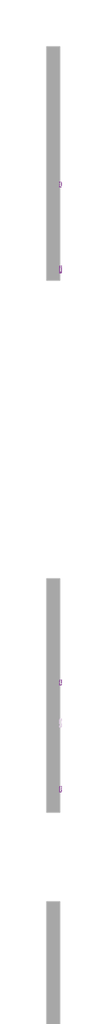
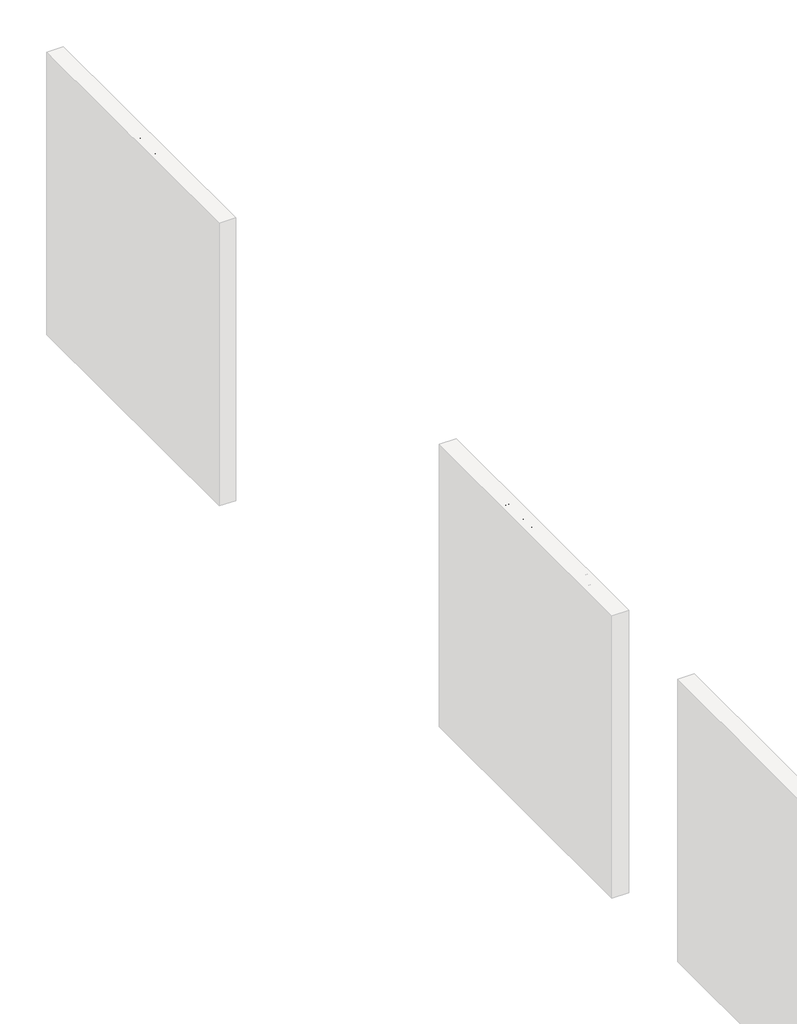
# One storey, part 16 of 17: 5 proxies.
"""IFC4 building model written with IfcOpenShell, lengths in millimetres."""

from ifc_helpers import new_model, si_unit, frame, origin, place, context, project, spatial, polyline, outline, extrude, element, save

model = new_model("IFC4")

# Units and contexts
model_context = context("Model", 3, world=origin())
ifc_project = project(units=[si_unit("LENGTHUNIT", "METRE", prefix="MILLI")], contexts=[model_context])

# Site, building, storey
site = spatial("IfcSite", under=ifc_project)
building = spatial("IfcBuilding", under=site)
storey = spatial("IfcBuildingStorey", under=building, Name="PORTOBELLO - SHOWROOM", Elevation=0.0)

# Proxies
placement = place(None, origin())
element("IfcBuildingElementProxy", 1, Name="10mm Arial", ObjectType="10mm Arial", at=placement, inside=storey, context=model_context, shape_type="SweptSolid", body=[
    extrude(outline(polyline([(19299.0684621, 2518.4745677), (19299.0684621, 2618.9308778), (19337.401766, 2618.9308778), (19356.1760105, 2615.9755591), (19367.2615213, 2606.8888738), (19371.2714351, 2594.0375295), (19367.8991834, 2582.3020938), (19357.7088522, 2573.4116123), (19370.0819499, 2564.0428841), (19374.4106948, 2548.4201621), (19371.4553761, 2534.9188928), (19364.1345244, 2525.30491), (19353.2084291, 2520.203613), (19337.1074604, 2518.4745677), (19299.0684621, 2518.4745677)]), holes=[polyline([(19311.6255009, 2578.1205018), (19334.5568119, 2578.1205018), (19347.9477166, 2579.1996223), (19356.0043323, 2583.8471982), (19358.7143963, 2592.0264412), (19356.1882733, 2600.217947), (19348.9532607, 2605.0617266), (19332.8155038, 2606.373839), (19311.6255009, 2606.373839), (19311.6255009, 2578.1205018)]), polyline([(19311.6255009, 2531.0316064), (19337.3772406, 2531.0316064), (19346.6969178, 2531.5221158), (19354.5818552, 2534.2567053), (19359.8057795, 2539.8362488), (19361.853656, 2548.2975347), (19359.4501603, 2558.0586703), (19351.6633247, 2563.8834686), (19336.1509673, 2565.563463), (19311.6255009, 2565.563463), (19311.6255009, 2531.0316064)])]), frame((-7622.2794626, 0.0, 0.0), z_axis=(1.0, 0.0, 0.0), x_axis=(0.0, 1.0, 0.0)), (0.0, 0.0, 1.0), 20.0),
    extrude(outline(polyline([(19390.1069932, 2518.4745677), (19390.1069932, 2592.2471704), (19401.0944021, 2592.2471704), (19401.0944021, 2581.3333379), (19408.8935004, 2591.3887791), (19416.7416497, 2593.8168003), (19429.3477394, 2589.9417766), (19425.1538846, 2578.6845875), (19416.3247167, 2581.2597615), (19409.2245942, 2578.7826894), (19404.6996457, 2571.9155588), (19402.664032, 2557.24933), (19402.664032, 2518.4745677), (19390.1069932, 2518.4745677)])), frame((-7622.2794626, 0.0, 0.0), z_axis=(1.0, 0.0, 0.0), x_axis=(0.0, 1.0, 0.0)), (0.0, 0.0, 1.0), 20.0),
    extrude(outline(polyline([(19484.284784, 2527.8923467), (19472.1078899, 2519.3820099), (19458.6556716, 2516.9049378), (19448.1618377, 2518.3948599), (19440.4209874, 2522.8646261), (19435.6477185, 2529.6520489), (19434.0566289, 2538.0949407), (19436.4601246, 2548.0277546), (19442.7754322, 2555.2382417), (19451.5678119, 2559.3585201), (19462.4325935, 2561.246981), (19484.2112076, 2565.563463), (19484.284784, 2568.3593662), (19480.8266932, 2577.6299925), (19466.9452793, 2581.2597615), (19454.2410877, 2578.8440031), (19448.1832975, 2570.2723526), (19435.6262587, 2571.8419824), (19441.0586495, 2584.1047156), (19451.9970075, 2591.2906772), (19468.56396, 2593.8168003), (19483.7820119, 2591.5849828), (19492.3781879, 2585.9809138), (19496.2286861, 2577.4583142), (19496.8418227, 2566.4709053), (19496.8418227, 2550.8481832), (19497.4794849, 2529.0327809), (19499.9810824, 2518.4745677), (19487.4240437, 2518.4745677), (19484.284784, 2527.8923467)]), holes=[polyline([(19484.284784, 2553.0064243), (19464.0267488, 2549.1559261), (19453.2232809, 2547.1203124), (19448.3304503, 2543.8093744), (19446.6136677, 2538.9778575), (19450.3538013, 2532.1843033), (19461.3289475, 2529.4619766), (19474.033139, 2532.4663462), (19482.2246448, 2539.738147), (19484.2112076, 2549.4502317), (19484.284784, 2553.0064243)])]), frame((-7622.2794626, 0.0, 0.0), z_axis=(1.0, 0.0, 0.0), x_axis=(0.0, 1.0, 0.0)), (0.0, 0.0, 1.0), 20.0),
    extrude(outline(polyline([(19514.1077511, 2518.4745677), (19514.1077511, 2592.2471704), (19526.6647898, 2592.2471704), (19526.6647898, 2581.9464746), (19536.2665099, 2590.8492188), (19549.3753717, 2593.8168003), (19561.2334346, 2591.4255673), (19569.3268385, 2585.1470479), (19573.0914976, 2575.9132098), (19573.7536852, 2563.773104), (19573.7536852, 2518.4745677), (19561.1966464, 2518.4745677), (19561.1966464, 2562.0808468), (19559.7496439, 2573.1908831), (19554.6360842, 2579.0647323), (19546.0153828, 2581.2597615), (19532.3914862, 2576.3301428), (19528.0964639, 2569.1871007), (19526.6647898, 2557.6172119), (19526.6647898, 2518.4745677), (19514.1077511, 2518.4745677)])), frame((-7622.2794626, 0.0, 0.0), z_axis=(1.0, 0.0, 0.0), x_axis=(0.0, 1.0, 0.0)), (0.0, 0.0, 1.0), 20.0),
    extrude(outline(polyline([(19638.1085089, 2545.158275), (19650.6655477, 2543.5886452), (19647.1645373, 2532.420361), (19640.585581, 2523.9805349), (19631.5479466, 2518.6738371), (19620.6709023, 2516.9049378), (19607.3137202, 2519.3728129), (19596.8689372, 2526.776438), (19590.1274997, 2538.7908508), (19587.8803538, 2555.0910889), (19591.7185893, 2575.949998), (19603.4172367, 2589.3531654), (19620.4992241, 2593.8168003), (19631.1095539, 2592.2839586), (19639.5922996, 2587.6854337), (19645.6776809, 2580.2664801), (19649.0959178, 2570.2723526), (19636.538879, 2568.7027227), (19630.7140808, 2578.1082391), (19620.5973259, 2581.2597615), (19612.4824622, 2579.7085258), (19606.0414616, 2575.0548185), (19601.8384099, 2567.0472538), (19600.4373926, 2555.4344454), (19601.807753, 2543.6652873), (19605.9188343, 2535.6301314), (19612.2433389, 2531.0040153), (19620.2539694, 2529.4619766), (19632.0875069, 2533.3124748), (19638.1085089, 2545.158275)])), frame((-7622.2794626, 0.0, 0.0), z_axis=(1.0, 0.0, 0.0), x_axis=(0.0, 1.0, 0.0)), (0.0, 0.0, 1.0), 20.0),
    extrude(outline(polyline([(19658.5136969, 2555.360869), (19661.2298923, 2573.1479635), (19669.3784785, 2585.64982), (19679.4461824, 2591.7750552), (19691.5004491, 2593.8168003), (19704.6920843, 2591.3305311), (19715.2288378, 2583.8717237), (19722.1358223, 2572.0289891), (19724.4381504, 2556.3909386), (19720.366923, 2534.0482388), (19708.50886, 2521.4053609), (19691.5004491, 2516.9049378), (19678.1493984, 2519.3820099), (19667.6249076, 2526.8132262), (19660.7914996, 2538.9042811), (19658.5136969, 2555.360869)]), holes=[polyline([(19671.0707357, 2555.3853945), (19672.5238695, 2544.0209065), (19676.8832712, 2535.924437), (19683.4438334, 2531.0775917), (19691.5004491, 2529.4619766), (19699.5202766, 2531.0867887), (19706.0685761, 2535.9612252), (19710.4279778, 2544.1649937), (19711.8811117, 2555.777802), (19710.4187807, 2566.8111961), (19706.0317879, 2574.7973011), (19699.4742914, 2579.6441464), (19691.5004491, 2581.2597615), (19683.4438334, 2579.6502778), (19676.8832712, 2574.8218266), (19672.5238695, 2566.7437511), (19671.0707357, 2555.3853945)])]), frame((-7622.2794626, 0.0, 0.0), z_axis=(1.0, 0.0, 0.0), x_axis=(0.0, 1.0, 0.0)), (0.0, 0.0, 1.0), 20.0),
    extrude(outline(polyline([(19779.375195, 2518.4745677), (19779.375195, 2618.9308778), (19846.8692784, 2618.9308778), (19846.8692784, 2606.373839), (19791.9322338, 2606.373839), (19791.9322338, 2576.550872), (19839.0211292, 2576.550872), (19839.0211292, 2563.9938332), (19791.9322338, 2563.9938332), (19791.9322338, 2518.4745677), (19779.375195, 2518.4745677)])), frame((-7622.2794626, 0.0, 0.0), z_axis=(1.0, 0.0, 0.0), x_axis=(0.0, 1.0, 0.0)), (0.0, 0.0, 1.0), 20.0),
    extrude(outline(polyline([(19862.5655769, 2518.4745677), (19862.5655769, 2592.2471704), (19873.5529858, 2592.2471704), (19873.5529858, 2581.3333379), (19881.3520841, 2591.3887791), (19889.2002333, 2593.8168003), (19901.806323, 2589.9417766), (19897.6124683, 2578.6845875), (19888.7833004, 2581.2597615), (19881.6831779, 2578.7826894), (19877.1582294, 2571.9155588), (19875.1226157, 2557.24933), (19875.1226157, 2518.4745677), (19862.5655769, 2518.4745677)])), frame((-7622.2794626, 0.0, 0.0), z_axis=(1.0, 0.0, 0.0), x_axis=(0.0, 1.0, 0.0)), (0.0, 0.0, 1.0), 20.0),
    extrude(outline(polyline([(19961.3051044, 2540.4493855), (19973.6168885, 2538.8797557), (19969.1808448, 2529.602998), (19962.102182, 2522.6684224), (19952.5403159, 2518.345809), (19940.6546617, 2516.9049378), (19925.9209878, 2519.391207), (19914.584091, 2526.8500144), (19907.3552098, 2538.7969822), (19904.9455827, 2554.7477324), (19907.3797353, 2571.2349771), (19914.6821929, 2583.5651553), (19925.8658055, 2591.253889), (19939.9434232, 2593.8168003), (19953.5826482, 2591.2600204), (19964.4811523, 2583.5896808), (19971.62726, 2571.2840281), (19974.009296, 2554.8213088), (19973.9357196, 2551.4367944), (19917.5026215, 2551.4367944), (19919.676191, 2542.0374095), (19924.7253713, 2535.1273593), (19932.0125005, 2530.8783223), (19940.8999164, 2529.4619766), (19953.2117005, 2532.0862015), (19961.3051044, 2540.4493855)]), holes=[polyline([(19917.5026215, 2563.9938332), (19961.4522572, 2563.9938332), (19956.4245366, 2575.3736496), (19949.1036849, 2579.7882335), (19939.8943723, 2581.2597615), (19924.4310657, 2576.5631347), (19919.5658264, 2571.0724959), (19917.5026215, 2563.9938332)])]), frame((-7622.2794626, 0.0, 0.0), z_axis=(1.0, 0.0, 0.0), x_axis=(0.0, 1.0, 0.0)), (0.0, 0.0, 1.0), 20.0),
    extrude(outline(polyline([(20033.6552301, 2545.158275), (20046.2122689, 2543.5886452), (20042.7112586, 2532.420361), (20036.1323022, 2523.9805349), (20027.0946679, 2518.6738371), (20016.2176235, 2516.9049378), (20002.8604414, 2519.3728129), (19992.4156584, 2526.776438), (19985.6742209, 2538.7908508), (19983.427075, 2555.0910889), (19987.2653105, 2575.949998), (19998.963958, 2589.3531654), (20016.0459453, 2593.8168003), (20026.6562751, 2592.2839586), (20035.1390208, 2587.6854337), (20041.2244022, 2580.2664801), (20044.642639, 2570.2723526), (20032.0856003, 2568.7027227), (20026.260802, 2578.1082391), (20016.1440471, 2581.2597615), (20008.0291835, 2579.7085258), (20001.5881829, 2575.0548185), (19997.3851311, 2567.0472538), (19995.9841138, 2555.4344454), (19997.3544742, 2543.6652873), (20001.4655555, 2535.6301314), (20007.7900602, 2531.0040153), (20015.8006906, 2529.4619766), (20027.6342281, 2533.3124748), (20033.6552301, 2545.158275)])), frame((-7622.2794626, 0.0, 0.0), z_axis=(1.0, 0.0, 0.0), x_axis=(0.0, 1.0, 0.0)), (0.0, 0.0, 1.0), 20.0),
    extrude(outline(polyline([(20104.2885732, 2545.158275), (20116.845612, 2543.5886452), (20113.3446016, 2532.420361), (20106.7656453, 2523.9805349), (20097.7280109, 2518.6738371), (20086.8509666, 2516.9049378), (20073.4937845, 2519.3728129), (20063.0490015, 2526.776438), (20056.307564, 2538.7908508), (20054.0604181, 2555.0910889), (20057.8986536, 2575.949998), (20069.597301, 2589.3531654), (20086.6792883, 2593.8168003), (20097.2896182, 2592.2839586), (20105.7723639, 2587.6854337), (20111.8577452, 2580.2664801), (20115.2759821, 2570.2723526), (20102.7189433, 2568.7027227), (20096.8941451, 2578.1082391), (20086.7773902, 2581.2597615), (20078.6625265, 2579.7085258), (20072.2215259, 2575.0548185), (20068.0184741, 2567.0472538), (20066.6174569, 2555.4344454), (20067.9878173, 2543.6652873), (20072.0988986, 2535.6301314), (20078.4234032, 2531.0040153), (20086.4340337, 2529.4619766), (20098.2675712, 2533.3124748), (20104.2885732, 2545.158275)])), frame((-7622.2794626, 0.0, 0.0), z_axis=(1.0, 0.0, 0.0), x_axis=(0.0, 1.0, 0.0)), (0.0, 0.0, 1.0), 20.0),
    extrude(outline(polyline([(-7602.2794626, 20140.3900596), (-7602.2794626, 20127.8330209), (-7622.2794626, 20127.8330209), (-7622.2794626, 20140.3900596), (-7602.2794626, 20140.3900596)])), frame((0.0, 0.0, 2606.373839), z_axis=(0.0, 0.0, 1.0), x_axis=(1.0, 0.0, 0.0)), (0.0, 0.0, 1.0), 12.5570388),
    extrude(outline(polyline([(-7602.2794626, 20140.3900596), (-7602.2794626, 20127.8330209), (-7622.2794626, 20127.8330209), (-7622.2794626, 20140.3900596), (-7602.2794626, 20140.3900596)])), frame((0.0, 0.0, 2518.4745677), z_axis=(0.0, 0.0, 1.0), x_axis=(1.0, 0.0, 0.0)), (0.0, 0.0, 1.0), 73.7726028),
    extrude(outline(polyline([(20206.3145132, 2527.8923467), (20194.1376191, 2519.3820099), (20180.6854008, 2516.9049378), (20170.1915669, 2518.3948599), (20162.4507166, 2522.8646261), (20157.6774477, 2529.6520489), (20156.0863581, 2538.0949407), (20158.4898538, 2548.0277546), (20164.8051614, 2555.2382417), (20173.5975411, 2559.3585201), (20184.4623227, 2561.246981), (20206.2409368, 2565.563463), (20206.3145132, 2568.3593662), (20202.8564224, 2577.6299925), (20188.9750085, 2581.2597615), (20176.2708169, 2578.8440031), (20170.2130267, 2570.2723526), (20157.6559879, 2571.8419824), (20163.0883787, 2584.1047156), (20174.0267367, 2591.2906772), (20190.5936892, 2593.8168003), (20205.8117411, 2591.5849828), (20214.4079171, 2585.9809138), (20218.2584153, 2577.4583142), (20218.8715519, 2566.4709053), (20218.8715519, 2550.8481832), (20219.5092141, 2529.0327809), (20222.0108116, 2518.4745677), (20209.4537729, 2518.4745677), (20206.3145132, 2527.8923467)]), holes=[polyline([(20206.3145132, 2553.0064243), (20186.056478, 2549.1559261), (20175.2530101, 2547.1203124), (20170.3601795, 2543.8093744), (20168.6433969, 2538.9778575), (20172.3835305, 2532.1843033), (20183.3586767, 2529.4619766), (20196.0628682, 2532.4663462), (20204.254374, 2539.738147), (20206.2409368, 2549.4502317), (20206.3145132, 2553.0064243)])]), frame((-7622.2794626, 0.0, 0.0), z_axis=(1.0, 0.0, 0.0), x_axis=(0.0, 1.0, 0.0)), (0.0, 0.0, 1.0), 20.0),
])
element("IfcBuildingElementProxy", 2, Name="10mm Arial", ObjectType="10mm Arial", at=placement, inside=storey, context=model_context, shape_type="SweptSolid", body=[
    extrude(outline(polyline([(13192.4529383, 2393.4745677), (13179.8958996, 2393.4745677), (13179.8958996, 2471.7598562), (13168.0010484, 2463.2863076), (13154.781822, 2456.9464746), (13154.781822, 2468.8168003), (13173.1881845, 2480.5644987), (13184.3595344, 2493.9308778), (13192.4529383, 2493.9308778), (13192.4529383, 2393.4745677)])), frame((-7622.2794626, 0.0, 0.0), z_axis=(1.0, 0.0, 0.0), x_axis=(0.0, 1.0, 0.0)), (0.0, 0.0, 1.0), 20.0),
    extrude(outline(polyline([(13222.2759054, 2442.8933823), (13225.9669881, 2471.7966444), (13236.9298715, 2488.4616988), (13255.2381322, 2493.9308778), (13269.904361, 2490.6935163), (13280.0333786, 2481.3615763), (13285.9194906, 2466.4991437), (13288.2003589, 2442.8933823), (13284.5460645, 2414.1127476), (13273.6199692, 2397.410905), (13265.3886096, 2393.2814296), (13255.2381322, 2391.9049378), (13242.1905841, 2394.2961708), (13232.2822957, 2401.4698697), (13224.777503, 2418.4598865), (13222.2759054, 2442.8933823)]), holes=[polyline([(13234.8329442, 2442.9179078), (13236.3044722, 2423.1657104), (13240.7190561, 2411.7337774), (13247.2918811, 2406.2799268), (13255.2381322, 2404.4619766), (13263.1843833, 2406.2860581), (13269.7572082, 2411.7583028), (13274.1717922, 2423.1963672), (13275.6433202, 2442.9179078), (13274.2208431, 2462.2255812), (13269.953412, 2473.746419), (13263.3928497, 2479.466984), (13255.0909794, 2481.373839), (13247.2305674, 2479.6938446), (13240.9152598, 2474.6538613), (13236.3535231, 2462.4156536), (13234.8329442, 2442.9179078)])]), frame((-7622.2794626, 0.0, 0.0), z_axis=(1.0, 0.0, 0.0), x_axis=(0.0, 1.0, 0.0)), (0.0, 0.0, 1.0), 20.0),
    extrude(outline(polyline([(13294.4788783, 2393.4745677), (13321.3097385, 2430.5815982), (13296.0485082, 2467.2471704), (13311.1071445, 2467.2471704), (13323.2963013, 2449.5643092), (13329.0107349, 2441.2501761), (13333.9648791, 2448.0682557), (13347.8462931, 2467.2471704), (13362.9539804, 2467.2471704), (13336.4174258, 2430.5570728), (13361.9729617, 2393.4745677), (13346.8897999, 2393.4745677), (13331.487807, 2415.792742), (13328.6919039, 2419.8884949), (13309.5865656, 2393.4745677), (13294.4788783, 2393.4745677)])), frame((-7622.2794626, 0.0, 0.0), z_axis=(1.0, 0.0, 0.0), x_axis=(0.0, 1.0, 0.0)), (0.0, 0.0, 1.0), 20.0),
    extrude(outline(polyline([(13434.1759346, 2406.0316064), (13434.1759346, 2393.4745677), (13368.2514811, 2393.4745677), (13369.6003817, 2402.1320573), (13377.2400645, 2415.4616482), (13392.9731512, 2430.0175125), (13414.6414007, 2450.9377353), (13420.049266, 2465.1625058), (13414.9357063, 2476.6772122), (13401.5815899, 2481.373839), (13387.6633877, 2476.7875768), (13382.3781497, 2464.1079107), (13369.8211109, 2465.6775406), (13372.8653344, 2477.8237778), (13379.4473565, 2486.6958652), (13389.2238205, 2492.1221247), (13401.85137, 2493.9308778), (13414.57089, 2491.9197896), (13424.3289599, 2485.8865249), (13430.5369686, 2476.873416), (13432.6063048, 2465.9227952), (13430.3744873, 2454.0156813), (13422.9555338, 2441.7038972), (13404.9661042, 2424.4992826), (13390.5206045, 2412.4204904), (13384.8552218, 2406.0316064), (13434.1759346, 2406.0316064)])), frame((-7622.2794626, 0.0, 0.0), z_axis=(1.0, 0.0, 0.0), x_axis=(0.0, 1.0, 0.0)), (0.0, 0.0, 1.0), 20.0),
    extrude(outline(polyline([(13446.7329734, 2442.8933823), (13450.4240561, 2471.7966444), (13461.3869395, 2488.4616988), (13479.6952002, 2493.9308778), (13494.361429, 2490.6935163), (13504.4904466, 2481.3615763), (13510.3765586, 2466.4991437), (13512.6574269, 2442.8933823), (13509.0031324, 2414.1127476), (13498.0770372, 2397.410905), (13489.8456775, 2393.2814296), (13479.6952002, 2391.9049378), (13466.6476521, 2394.2961708), (13456.7393637, 2401.4698697), (13449.234571, 2418.4598865), (13446.7329734, 2442.8933823)]), holes=[polyline([(13459.2900122, 2442.9179078), (13460.7615401, 2423.1657104), (13465.1761241, 2411.7337774), (13471.7489491, 2406.2799268), (13479.6952002, 2404.4619766), (13487.6414513, 2406.2860581), (13494.2142762, 2411.7583028), (13498.6288602, 2423.1963672), (13500.1003882, 2442.9179078), (13498.6779111, 2462.2255812), (13494.41048, 2473.746419), (13487.8499177, 2479.466984), (13479.5480474, 2481.373839), (13471.6876354, 2479.6938446), (13465.3723278, 2474.6538613), (13460.8105911, 2462.4156536), (13459.2900122, 2442.9179078)])]), frame((-7622.2794626, 0.0, 0.0), z_axis=(1.0, 0.0, 0.0), x_axis=(0.0, 1.0, 0.0)), (0.0, 0.0, 1.0), 20.0),
])
element("IfcBuildingElementProxy", 3, Name="10mm Arial", ObjectType="10mm Arial", at=placement, inside=storey, context=model_context, shape_type="SweptSolid", body=[
    extrude(outline(polyline([(19335.1699486, 2383.4745677), (19335.1699486, 2407.0190154), (19289.6506831, 2407.0190154), (19289.6506831, 2419.5760541), (19338.3092083, 2482.361248), (19347.7269874, 2482.361248), (19347.7269874, 2419.5760541), (19360.2840261, 2419.5760541), (19360.2840261, 2407.0190154), (19347.7269874, 2407.0190154), (19347.7269874, 2383.4745677), (19335.1699486, 2383.4745677)]), holes=[polyline([(19335.1699486, 2419.5760541), (19335.1699486, 2458.3753419), (19305.1017269, 2419.5760541), (19335.1699486, 2419.5760541)])]), frame((-7622.2794626, 0.0, 0.0), z_axis=(1.0, 0.0, 0.0), x_axis=(0.0, 1.0, 0.0)), (0.0, 0.0, 1.0), 20.0),
    extrude(outline(polyline([(19371.2714351, 2410.158275), (19383.8284738, 2411.7279049), (19390.1560441, 2398.7907214), (19403.2771686, 2394.4619766), (19412.2780148, 2395.9672271), (19419.022518, 2400.4829786), (19423.2347669, 2407.4880649), (19424.6388498, 2416.4613199), (19419.3781373, 2431.3728034), (19412.7715898, 2435.4746877), (19403.4733724, 2436.8419824), (19392.4491752, 2434.6592159), (19385.3981037, 2428.9938332), (19372.8410649, 2430.563463), (19383.8284738, 2482.361248), (19432.4869991, 2482.361248), (19432.4869991, 2469.8042092), (19393.9820169, 2469.8042092), (19388.5864143, 2442.1394832), (19397.5566036, 2447.5841367), (19406.9559886, 2449.3990212), (19418.6914242, 2447.1488097), (19428.4402971, 2440.3981751), (19435.0069907, 2430.1097419), (19437.1958886, 2417.2461348), (19435.2277199, 2404.6890961), (19429.3232139, 2393.9469418), (19418.0169739, 2384.9154388), (19403.2281177, 2381.9049378), (19390.8948738, 2383.839384), (19381.0693589, 2389.6427224), (19374.3340527, 2398.6405029), (19371.2714351, 2410.158275)])), frame((-7622.2794626, 0.0, 0.0), z_axis=(1.0, 0.0, 0.0), x_axis=(0.0, 1.0, 0.0)), (0.0, 0.0, 1.0), 20.0),
    extrude(outline(polyline([(19443.474408, 2383.4745677), (19470.3052682, 2420.5815982), (19445.0440378, 2457.2471704), (19460.1026742, 2457.2471704), (19472.2918309, 2439.5643092), (19478.0062646, 2431.2501761), (19482.9604088, 2438.0682557), (19496.8418227, 2457.2471704), (19511.94951, 2457.2471704), (19485.4129554, 2420.5570728), (19510.9684914, 2383.4745677), (19495.8853296, 2383.4745677), (19480.4833367, 2405.792742), (19477.6874335, 2409.8884949), (19458.5820952, 2383.4745677), (19443.474408, 2383.4745677)])), frame((-7622.2794626, 0.0, 0.0), z_axis=(1.0, 0.0, 0.0), x_axis=(0.0, 1.0, 0.0)), (0.0, 0.0, 1.0), 20.0),
    extrude(outline(polyline([(19565.905536, 2383.4745677), (19553.3484972, 2383.4745677), (19553.3484972, 2461.7598562), (19541.453646, 2453.2863076), (19528.2344197, 2446.9464746), (19528.2344197, 2458.8168003), (19546.6407822, 2470.5644987), (19557.8121321, 2483.9308778), (19565.905536, 2483.9308778), (19565.905536, 2383.4745677)])), frame((-7622.2794626, 0.0, 0.0), z_axis=(1.0, 0.0, 0.0), x_axis=(0.0, 1.0, 0.0)), (0.0, 0.0, 1.0), 20.0),
    extrude(outline(polyline([(19660.0833267, 2396.0316064), (19660.0833267, 2383.4745677), (19594.1588732, 2383.4745677), (19595.5077739, 2392.1320573), (19603.1474566, 2405.4616482), (19618.8805433, 2420.0175125), (19640.5487928, 2440.9377353), (19645.9566581, 2455.1625058), (19640.8430984, 2466.6772122), (19627.488982, 2471.373839), (19613.5707798, 2466.7875768), (19608.2855418, 2454.1079107), (19595.728503, 2455.6775406), (19598.7727266, 2467.8237778), (19605.3547486, 2476.6958652), (19615.1312126, 2482.1221247), (19627.7587621, 2483.9308778), (19640.4782821, 2481.9197896), (19650.236352, 2475.8865249), (19656.4443607, 2466.873416), (19658.5136969, 2455.9227952), (19656.2818795, 2444.0156813), (19648.8629259, 2431.7038972), (19630.8734963, 2414.4992826), (19616.4279966, 2402.4204904), (19610.7626139, 2396.0316064), (19660.0833267, 2396.0316064)])), frame((-7622.2794626, 0.0, 0.0), z_axis=(1.0, 0.0, 0.0), x_axis=(0.0, 1.0, 0.0)), (0.0, 0.0, 1.0), 20.0),
    extrude(outline(polyline([(19672.6403655, 2432.8933823), (19676.3314482, 2461.7966444), (19687.2943316, 2478.4616988), (19705.6025923, 2483.9308778), (19720.2688211, 2480.6935163), (19730.3978388, 2471.3615763), (19736.2839507, 2456.4991437), (19738.564819, 2432.8933823), (19734.9105246, 2404.1127476), (19723.9844293, 2387.410905), (19715.7530697, 2383.2814296), (19705.6025923, 2381.9049378), (19692.5550442, 2384.2961708), (19682.6467558, 2391.4698697), (19675.1419631, 2408.4598865), (19672.6403655, 2432.8933823)]), holes=[polyline([(19685.1974043, 2432.9179078), (19686.6689323, 2413.1657104), (19691.0835162, 2401.7337774), (19697.6563412, 2396.2799268), (19705.6025923, 2394.4619766), (19713.5488434, 2396.2860581), (19720.1216684, 2401.7583028), (19724.5362523, 2413.1963672), (19726.0077803, 2432.9179078), (19724.5853032, 2452.2255812), (19720.3178721, 2463.746419), (19713.7573098, 2469.466984), (19705.4554395, 2471.373839), (19697.5950275, 2469.6938446), (19691.2797199, 2464.6538613), (19686.7179832, 2452.4156536), (19685.1974043, 2432.9179078)])]), frame((-7622.2794626, 0.0, 0.0), z_axis=(1.0, 0.0, 0.0), x_axis=(0.0, 1.0, 0.0)), (0.0, 0.0, 1.0), 20.0),
])
element("IfcBuildingElementProxy", 4, Name="10mm Arial Narrow", ObjectType="10mm Arial Narrow", at=placement, inside=storey, context=model_context, shape_type="SweptSolid", body=[
    extrude(outline(polyline([(20282.2483758, 2518.4745677), (20282.2483758, 2619.1931714), (20313.5452605, 2619.1931714), (20329.840962, 2617.3148507), (20341.3139481, 2607.8344075), (20345.6036266, 2590.8152987), (20343.8173182, 2578.7394731), (20338.4583929, 2569.1130794), (20328.7146041, 2562.811821), (20313.7737049, 2560.7114015), (20291.9953375, 2560.7114015), (20291.9953375, 2518.4745677), (20282.2483758, 2518.4745677)]), holes=[polyline([(20291.9953375, 2572.0828568), (20314.9666924, 2572.0828568), (20330.8308878, 2576.613671), (20335.8566649, 2590.2822617), (20333.3818504, 2600.4480381), (20327.4042216, 2606.247988), (20314.738248, 2607.8217162), (20291.9953375, 2607.8217162), (20291.9953375, 2572.0828568)])]), frame((-7622.2794626, 0.0, 0.0), z_axis=(1.0, 0.0, 0.0), x_axis=(0.0, 1.0, 0.0)), (0.0, 0.0, 1.0), 20.0),
    extrude(outline(polyline([(20353.7260946, 2555.0256739), (20355.6805635, 2571.6164494), (20361.5439701, 2583.5685342), (20370.4025368, 2590.7930888), (20381.3424859, 2593.2012737), (20392.1555215, 2590.7930888), (20401.039471, 2583.5685342), (20406.9790257, 2571.8068198), (20408.9588773, 2555.7871552), (20407.0139269, 2538.6252687), (20401.1790759, 2526.4828135), (20392.3300277, 2519.2582589), (20381.3424859, 2516.8500741), (20370.4818578, 2519.2646046), (20361.6074269, 2526.5081962), (20355.6964277, 2538.4666267), (20353.7260946, 2555.0256739)]), holes=[polyline([(20363.4730563, 2555.0510566), (20364.7770931, 2542.4993052), (20368.6892037, 2533.6280471), (20374.5304004, 2528.3547886), (20381.6216958, 2526.5970357), (20388.341769, 2528.3706528), (20394.0338423, 2533.6915039), (20397.9173973, 2542.5786262), (20399.2119156, 2555.0510566), (20397.9078788, 2567.5647339), (20393.9957682, 2576.4233006), (20388.1545715, 2581.6965592), (20381.0632761, 2583.454312), (20374.2956104, 2581.6870407), (20368.6130556, 2576.3852265), (20364.7580561, 2567.5171413), (20363.4730563, 2555.0510566)])]), frame((-7622.2794626, 0.0, 0.0), z_axis=(1.0, 0.0, 0.0), x_axis=(0.0, 1.0, 0.0)), (0.0, 0.0, 1.0), 20.0),
    extrude(outline(polyline([(20480.4365961, 2526.5970357), (20482.0610897, 2516.8500741), (20474.700103, 2516.8500741), (20466.4253387, 2518.9695306), (20462.1102776, 2524.7694804), (20460.9426728, 2539.4153056), (20460.9426728, 2581.8298184), (20452.8202047, 2581.8298184), (20452.8202047, 2585.0788056), (20451.1957111, 2580.2053248), (20443.6316628, 2581.8298184), (20437.5525031, 2579.5073002), (20433.6816394, 2573.0220171), (20431.7017878, 2557.6147106), (20431.7017878, 2518.4745677), (20421.9548262, 2518.4745677), (20421.9548262, 2591.5767801), (20431.7017878, 2591.5767801), (20431.7017878, 2581.8805838), (20437.9459351, 2590.967595), (20444.3423787, 2593.2012737), (20452.8202047, 2591.5767801), (20460.9426728, 2591.5767801), (20460.9426728, 2607.8217162), (20470.6896344, 2615.9441842), (20470.6896344, 2591.5767801), (20480.4365961, 2591.5767801), (20480.4365961, 2581.8298184), (20470.6896344, 2581.8298184), (20470.6896344, 2537.1816269), (20471.5526467, 2529.1860724), (20476.1723004, 2526.5970357), (20480.4365961, 2526.5970357)])), frame((-7622.2794626, 0.0, 0.0), z_axis=(1.0, 0.0, 0.0), x_axis=(0.0, 1.0, 0.0)), (0.0, 0.0, 1.0), 20.0),
    extrude(outline(polyline([(20486.9345705, 2555.0256739), (20488.8890394, 2571.6164494), (20494.752446, 2583.5685342), (20503.6110127, 2590.7930888), (20514.5509619, 2593.2012737), (20525.3639975, 2590.7930888), (20534.2479469, 2583.5685342), (20540.1875016, 2571.8068198), (20542.1673532, 2555.7871552), (20540.2224029, 2538.6252687), (20534.3875518, 2526.4828135), (20525.5385036, 2519.2582589), (20514.5509619, 2516.8500741), (20503.6903337, 2519.2646046), (20494.8159028, 2526.5081962), (20488.9049036, 2538.4666267), (20486.9345705, 2555.0256739)]), holes=[polyline([(20496.6815322, 2555.0510566), (20497.985569, 2542.4993052), (20501.8976796, 2533.6280471), (20507.7388764, 2528.3547886), (20514.8301717, 2526.5970357), (20521.5502449, 2528.3706528), (20527.2423182, 2533.6915039), (20531.1258732, 2542.5786262), (20532.4203916, 2555.0510566), (20531.1163547, 2567.5647339), (20527.2042441, 2576.4233006), (20521.3630474, 2581.6965592), (20514.271752, 2583.454312), (20507.5040863, 2581.6870407), (20501.8215315, 2576.3852265), (20497.966532, 2567.5171413), (20496.6815322, 2555.0510566)])]), frame((-7622.2794626, 0.0, 0.0), z_axis=(1.0, 0.0, 0.0), x_axis=(0.0, 1.0, 0.0)), (0.0, 0.0, 1.0), 20.0),
    extrude(outline(polyline([(20564.9102638, 2518.4745677), (20555.1633021, 2518.4745677), (20555.1633021, 2619.1931714), (20564.9102638, 2619.1931714), (20564.9102638, 2583.7842873), (20572.3093245, 2590.8660641), (20581.5105578, 2593.2012737), (20594.3922845, 2589.0004347), (20603.669666, 2576.2710043), (20607.1470976, 2555.5840935), (20605.2148386, 2539.1297501), (20599.4180616, 2526.927011), (20591.0449393, 2519.3693083), (20581.3836443, 2516.8500741), (20572.042806, 2519.4644935), (20564.9102638, 2527.2316035), (20564.9102638, 2518.4745677)]), holes=[polyline([(20564.9102638, 2555.5840935), (20566.9916462, 2538.3365403), (20572.8804355, 2529.6048872), (20581.3328788, 2526.5970357), (20587.2756064, 2528.3865169), (20592.5139638, 2533.7549607), (20597.4001359, 2555.1779701), (20592.6916427, 2576.613671), (20587.4469397, 2581.7441518), (20581.1298171, 2583.454312), (20575.1521883, 2581.6648308), (20569.8598927, 2576.2963871), (20564.9102638, 2555.5840935)])]), frame((-7622.2794626, 0.0, 0.0), z_axis=(1.0, 0.0, 0.0), x_axis=(0.0, 1.0, 0.0)), (0.0, 0.0, 1.0), 20.0),
    extrude(outline(polyline([(20659.1308931, 2541.2174782), (20668.8778547, 2539.5929846), (20665.1783244, 2529.706418), (20659.3593375, 2522.5865671), (20651.6556842, 2518.2841973), (20642.3021546, 2516.8500741), (20630.7086006, 2519.2646046), (20621.5644784, 2526.5081962), (20615.6249236, 2538.3143304), (20613.645072, 2554.4164888), (20615.6344421, 2571.0834124), (20621.6025524, 2583.2639417), (20630.6165883, 2590.7169407), (20641.7437349, 2593.2012737), (20652.4266841, 2590.8026073), (20661.1742014, 2583.6066083), (20667.0090525, 2571.8671037), (20668.9540029, 2555.8379207), (20668.8778547, 2552.5889335), (20623.3920337, 2552.5889335), (20629.3950452, 2533.1457756), (20635.3250815, 2528.2342207), (20642.4290682, 2526.5970357), (20652.6075359, 2530.2521463), (20659.1308931, 2541.2174782)]), holes=[polyline([(20624.0519842, 2562.3358951), (20659.1308931, 2562.3358951), (20654.8665974, 2576.6009796), (20649.0412648, 2581.7409789), (20641.8198831, 2583.454312), (20629.6107983, 2577.7432017), (20624.0519842, 2562.3358951)])]), frame((-7622.2794626, 0.0, 0.0), z_axis=(1.0, 0.0, 0.0), x_axis=(0.0, 1.0, 0.0)), (0.0, 0.0, 1.0), 20.0),
    extrude(outline(polyline([(-7602.2794626, 20691.6207653), (-7602.2794626, 20681.8738036), (-7622.2794626, 20681.8738036), (-7622.2794626, 20691.6207653), (-7602.2794626, 20691.6207653)])), frame((0.0, 0.0, 2518.4745677), z_axis=(0.0, 0.0, 1.0), x_axis=(1.0, 0.0, 0.0)), (0.0, 0.0, 1.0), 100.7186038),
    extrude(outline(polyline([(-7602.2794626, 20717.612663), (-7602.2794626, 20707.8657013), (-7622.2794626, 20707.8657013), (-7622.2794626, 20717.612663), (-7602.2794626, 20717.612663)])), frame((0.0, 0.0, 2518.4745677), z_axis=(0.0, 0.0, 1.0), x_axis=(1.0, 0.0, 0.0)), (0.0, 0.0, 1.0), 100.7186038),
    extrude(outline(polyline([(20728.9841183, 2555.0256739), (20730.9385871, 2571.6164494), (20736.8019938, 2583.5685342), (20745.6605605, 2590.7930888), (20756.6005096, 2593.2012737), (20767.4135452, 2590.7930888), (20776.2974946, 2583.5685342), (20782.2370494, 2571.8068198), (20784.216901, 2555.7871552), (20782.2719506, 2538.6252687), (20776.4370995, 2526.4828135), (20767.5880513, 2519.2582589), (20756.6005096, 2516.8500741), (20745.7398814, 2519.2646046), (20736.8654505, 2526.5081962), (20730.9544513, 2538.4666267), (20728.9841183, 2555.0256739)]), holes=[polyline([(20738.7310799, 2555.0510566), (20740.0351168, 2542.4993052), (20743.9472274, 2533.6280471), (20749.7884241, 2528.3547886), (20756.8797194, 2526.5970357), (20763.5997926, 2528.3706528), (20769.2918659, 2533.6915039), (20773.175421, 2542.5786262), (20774.4699393, 2555.0510566), (20773.1659024, 2567.5647339), (20769.2537919, 2576.4233006), (20763.4125951, 2581.6965592), (20756.3212998, 2583.454312), (20749.553634, 2581.6870407), (20743.8710792, 2576.3852265), (20740.0160797, 2567.5171413), (20738.7310799, 2555.0510566)])]), frame((-7622.2794626, 0.0, 0.0), z_axis=(1.0, 0.0, 0.0), x_axis=(0.0, 1.0, 0.0)), (0.0, 0.0, 1.0), 20.0),
])
element("IfcBuildingElementProxy", 5, Name="10mm Arial Narrow", ObjectType="10mm Arial Narrow", at=placement, inside=storey, context=model_context, shape_type="SweptSolid", body=[
    extrude(outline(polyline([(14531.9785273, 2518.4745677), (14531.9785273, 2615.7916181), (14562.2184273, 2615.7916181), (14577.9637767, 2613.9767336), (14589.0492875, 2604.8164719), (14593.1940913, 2588.3721467), (14591.4681116, 2576.7041561), (14586.2901726, 2567.402873), (14576.8754592, 2561.314426), (14562.4391565, 2559.2849437), (14541.3963064, 2559.2849437), (14541.3963064, 2518.4745677), (14531.9785273, 2518.4745677)]), holes=[polyline([(14541.3963064, 2570.2723526), (14563.5918535, 2570.2723526), (14578.9202699, 2574.6501483), (14583.7763123, 2587.857112), (14581.3850793, 2597.6795612), (14575.609332, 2603.2836303), (14563.3711243, 2604.8042092), (14541.3963064, 2604.8042092), (14541.3963064, 2570.2723526)])]), frame((-7622.2794626, 0.0, 0.0), z_axis=(1.0, 0.0, 0.0), x_axis=(0.0, 1.0, 0.0)), (0.0, 0.0, 1.0), 20.0),
    extrude(outline(polyline([(14601.0422406, 2553.7912392), (14602.9307015, 2569.8216971), (14608.5960842, 2581.3701261), (14617.155472, 2588.350687), (14627.7259479, 2590.6775406), (14638.1737966, 2588.350687), (14646.7577098, 2581.3701261), (14652.496669, 2570.0056381), (14654.4096553, 2554.5270032), (14652.5303915, 2537.9447223), (14646.8925999, 2526.2123523), (14638.3424092, 2519.2317914), (14627.7259479, 2516.9049378), (14617.232114, 2519.2379228), (14608.6573979, 2526.2368778), (14602.9460299, 2537.7914381), (14601.0422406, 2553.7912392)]), holes=[polyline([(14610.4600196, 2553.8157647), (14611.7200155, 2541.6879216), (14615.500003, 2533.1162711), (14621.1439259, 2528.0211054), (14627.9957281, 2526.3227169), (14634.4888453, 2528.0364339), (14639.9886811, 2533.1775847), (14643.7410775, 2541.7645636), (14644.9918763, 2553.8157647), (14643.7318804, 2565.9068196), (14639.9518929, 2574.4662073), (14634.30797, 2579.561373), (14627.4561678, 2581.2597615), (14620.9170654, 2579.5521759), (14615.4264266, 2574.4294191), (14611.7016214, 2565.8608343), (14610.4600196, 2553.8157647)])]), frame((-7622.2794626, 0.0, 0.0), z_axis=(1.0, 0.0, 0.0), x_axis=(0.0, 1.0, 0.0)), (0.0, 0.0, 1.0), 20.0),
    extrude(outline(polyline([(14723.4733686, 2526.3227169), (14725.0429984, 2516.9049378), (14717.9306132, 2516.9049378), (14709.9353111, 2518.9528143), (14705.7659819, 2524.5568833), (14704.6378104, 2538.7080774), (14704.6378104, 2579.6901317), (14696.7896612, 2579.6901317), (14696.7896612, 2582.8293914), (14695.2200313, 2578.1205018), (14687.9114424, 2579.6901317), (14682.0375932, 2577.4460515), (14678.2974596, 2571.1797948), (14676.3844732, 2556.2928368), (14676.3844732, 2518.4745677), (14666.9666941, 2518.4745677), (14666.9666941, 2589.1079107), (14676.3844732, 2589.1079107), (14676.3844732, 2579.7391826), (14682.4177379, 2588.5192995), (14688.5981554, 2590.6775406), (14696.7896612, 2589.1079107), (14704.6378104, 2589.1079107), (14704.6378104, 2604.8042092), (14714.0555895, 2612.6523584), (14714.0555895, 2589.1079107), (14723.4733686, 2589.1079107), (14723.4733686, 2579.6901317), (14714.0555895, 2579.6901317), (14714.0555895, 2536.5498364), (14714.8894553, 2528.8243145), (14719.3530902, 2526.3227169), (14723.4733686, 2526.3227169)])), frame((-7622.2794626, 0.0, 0.0), z_axis=(1.0, 0.0, 0.0), x_axis=(0.0, 1.0, 0.0)), (0.0, 0.0, 1.0), 20.0),
    extrude(outline(polyline([(14729.7518879, 2553.7912392), (14731.6403489, 2569.8216971), (14737.3057316, 2581.3701261), (14745.8651193, 2588.350687), (14756.4355953, 2590.6775406), (14766.883444, 2588.350687), (14775.4673572, 2581.3701261), (14781.2063163, 2570.0056381), (14783.1193027, 2554.5270032), (14781.2400389, 2537.9447223), (14775.6022473, 2526.2123523), (14767.0520566, 2519.2317914), (14756.4355953, 2516.9049378), (14745.9417614, 2519.2379228), (14737.3670452, 2526.2368778), (14731.6556773, 2537.7914381), (14729.7518879, 2553.7912392)]), holes=[polyline([(14739.169667, 2553.8157647), (14740.4296629, 2541.6879216), (14744.2096504, 2533.1162711), (14749.8535733, 2528.0211054), (14756.7053755, 2526.3227169), (14763.1984927, 2528.0364339), (14768.6983285, 2533.1775847), (14772.4507249, 2541.7645636), (14773.7015236, 2553.8157647), (14772.4415278, 2565.9068196), (14768.6615403, 2574.4662073), (14763.0176174, 2579.561373), (14756.1658152, 2581.2597615), (14749.6267127, 2579.5521759), (14744.136074, 2574.4294191), (14740.4112688, 2565.8608343), (14739.169667, 2553.8157647)])]), frame((-7622.2794626, 0.0, 0.0), z_axis=(1.0, 0.0, 0.0), x_axis=(0.0, 1.0, 0.0)), (0.0, 0.0, 1.0), 20.0),
    extrude(outline(polyline([(14805.0941206, 2518.4745677), (14795.6763415, 2518.4745677), (14795.6763415, 2615.7916181), (14805.0941206, 2615.7916181), (14805.0941206, 2581.5785926), (14812.243294, 2588.4211977), (14821.1337755, 2590.6775406), (14833.5804497, 2586.6185759), (14842.5445077, 2574.3190545), (14845.9044966, 2554.3307995), (14844.0374954, 2538.4321659), (14838.4364921, 2526.641548), (14830.3461538, 2519.3390904), (14821.0111482, 2516.9049378), (14811.9857766, 2519.4310609), (14805.0941206, 2526.9358536), (14805.0941206, 2518.4745677)]), holes=[polyline([(14805.0941206, 2554.3307995), (14807.1052088, 2537.6657451), (14812.795117, 2529.2289847), (14820.9620973, 2526.3227169), (14826.7041221, 2528.0517623), (14831.7655652, 2533.2388984), (14836.4867175, 2553.938392), (14831.9372435, 2574.6501483), (14826.869669, 2579.6073582), (14820.7658936, 2581.2597615), (14814.9901462, 2579.5307161), (14809.8765865, 2574.34358), (14805.0941206, 2554.3307995)])]), frame((-7622.2794626, 0.0, 0.0), z_axis=(1.0, 0.0, 0.0), x_axis=(0.0, 1.0, 0.0)), (0.0, 0.0, 1.0), 20.0),
    extrude(outline(polyline([(14896.1326516, 2540.4493855), (14905.5504307, 2538.8797557), (14896.3533808, 2522.4476932), (14879.8722674, 2516.9049378), (14868.6702607, 2519.2379228), (14859.8349614, 2526.2368778), (14854.0960023, 2537.6442853), (14852.1830159, 2553.202628), (14854.1051994, 2569.3066623), (14859.8717496, 2581.0758205), (14868.5813559, 2588.2771106), (14879.3327072, 2590.6775406), (14889.6548628, 2588.359884), (14898.1069517, 2581.4069143), (14903.7447432, 2570.0638861), (14905.6240071, 2554.5760541), (14905.5504307, 2551.4367944), (14861.600795, 2551.4367944), (14867.4010678, 2532.6502872), (14873.1308299, 2527.9046095), (14879.9948948, 2526.3227169), (14889.8296068, 2529.854384), (14896.1326516, 2540.4493855)]), holes=[polyline([(14862.2384571, 2560.8545735), (14896.1326516, 2560.8545735), (14892.0123733, 2574.6378856), (14886.3837788, 2579.6042925), (14879.4062836, 2581.2597615), (14867.6095343, 2575.7415316), (14862.2384571, 2560.8545735)])]), frame((-7622.2794626, 0.0, 0.0), z_axis=(1.0, 0.0, 0.0), x_axis=(0.0, 1.0, 0.0)), (0.0, 0.0, 1.0), 20.0),
    extrude(outline(polyline([(-7602.2794626, 14927.5252486), (-7602.2794626, 14918.1074695), (-7622.2794626, 14918.1074695), (-7622.2794626, 14927.5252486), (-7602.2794626, 14927.5252486)])), frame((0.0, 0.0, 2518.4745677), z_axis=(0.0, 0.0, 1.0), x_axis=(1.0, 0.0, 0.0)), (0.0, 0.0, 1.0), 97.3170505),
    extrude(outline(polyline([(-7602.2794626, 14952.6393261), (-7602.2794626, 14943.221547), (-7622.2794626, 14943.221547), (-7622.2794626, 14952.6393261), (-7602.2794626, 14952.6393261)])), frame((0.0, 0.0, 2518.4745677), z_axis=(0.0, 0.0, 1.0), x_axis=(1.0, 0.0, 0.0)), (0.0, 0.0, 1.0), 97.3170505),
    extrude(outline(polyline([(14963.626735, 2553.7912392), (14965.5151959, 2569.8216971), (14971.1805786, 2581.3701261), (14979.7399664, 2588.350687), (14990.3104424, 2590.6775406), (15000.7582911, 2588.350687), (15009.3422043, 2581.3701261), (15015.0811634, 2570.0056381), (15016.9941498, 2554.5270032), (15015.1148859, 2537.9447223), (15009.4770943, 2526.2123523), (15000.9269036, 2519.2317914), (14990.3104424, 2516.9049378), (14979.8166085, 2519.2379228), (14971.2418923, 2526.2368778), (14965.5305243, 2537.7914381), (14963.626735, 2553.7912392)]), holes=[polyline([(14973.0445141, 2553.8157647), (14974.3045099, 2541.6879216), (14978.0844974, 2533.1162711), (14983.7284204, 2528.0211054), (14990.5802225, 2526.3227169), (14997.0733397, 2528.0364339), (15002.5731756, 2533.1775847), (15006.3255719, 2541.7645636), (15007.5763707, 2553.8157647), (15006.3163749, 2565.9068196), (15002.5363874, 2574.4662073), (14996.8924644, 2579.561373), (14990.0406623, 2581.2597615), (14983.5015598, 2579.5521759), (14978.010921, 2574.4294191), (14974.2861158, 2565.8608343), (14973.0445141, 2553.8157647)])]), frame((-7622.2794626, 0.0, 0.0), z_axis=(1.0, 0.0, 0.0), x_axis=(0.0, 1.0, 0.0)), (0.0, 0.0, 1.0), 20.0),
])

save(model, "model.ifc")
